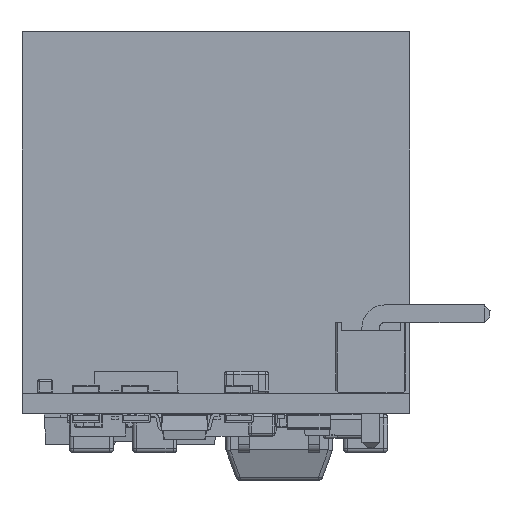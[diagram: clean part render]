
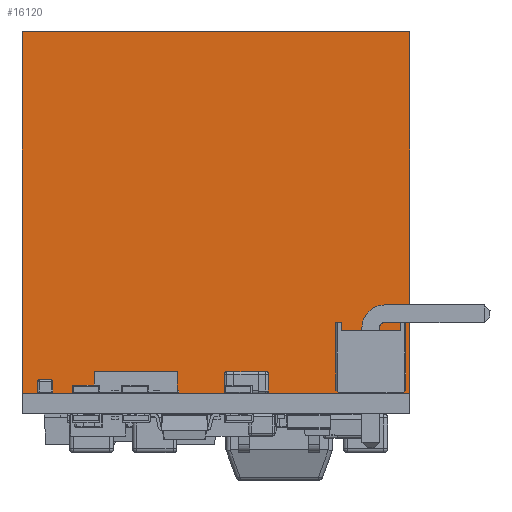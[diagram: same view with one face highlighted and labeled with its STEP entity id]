
A CAD part, left-side view. The second image highlights one B-rep face of the part: STEP entity #16120.
In plain terms, the highlighted planar face has unit normal (-1, 0, 0).
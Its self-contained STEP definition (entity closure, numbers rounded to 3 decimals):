
#11687=FACE_OUTER_BOUND($,#12502,.T.);
#12502=EDGE_LOOP($,(#17339,#17340,#17341,#17342));
#13680=AXIS2_PLACEMENT_3D($,#39155,#33129,$);
#15343=PLANE($,#13680);
#16120=ADVANCED_FACE($,(#11687),#15343,.T.);
#17339=ORIENTED_EDGE($,*,*,#22436,.T.);
#17340=ORIENTED_EDGE($,*,*,#22445,.T.);
#17341=ORIENTED_EDGE($,*,*,#22440,.F.);
#17342=ORIENTED_EDGE($,*,*,#22444,.F.);
#22436=EDGE_CURVE($,#30802,#30803,#27897,.T.);
#22440=EDGE_CURVE($,#30807,#30808,#27901,.T.);
#22444=EDGE_CURVE($,#30802,#30807,#27905,.T.);
#22445=EDGE_CURVE($,#30803,#30808,#27906,.T.);
#25001=VECTOR($,#33116,14.021);
#25005=VECTOR($,#33120,14.021);
#25009=VECTOR($,#33124,13.081);
#25010=VECTOR($,#33125,13.081);
#27897=LINE($,#39155,#25001);
#27901=LINE($,#39160,#25005);
#27905=LINE($,#39155,#25009);
#27906=LINE($,#39156,#25010);
#30802=VERTEX_POINT($,#39155);
#30803=VERTEX_POINT($,#39156);
#30807=VERTEX_POINT($,#39160);
#30808=VERTEX_POINT($,#39161);
#33116=DIRECTION($,(0.,1.,0.));
#33120=DIRECTION($,(0.,1.,0.));
#33124=DIRECTION($,(0.,0.,-1.));
#33125=DIRECTION($,(0.,0.,-1.));
#33129=DIRECTION($,(-1.,0.,0.));
#39155=CARTESIAN_POINT('',(1.357,-12.01,13.081));
#39156=CARTESIAN_POINT('',(1.357,2.011,13.081));
#39160=CARTESIAN_POINT('',(1.357,-12.01,0.));
#39161=CARTESIAN_POINT('',(1.357,2.011,0.));
